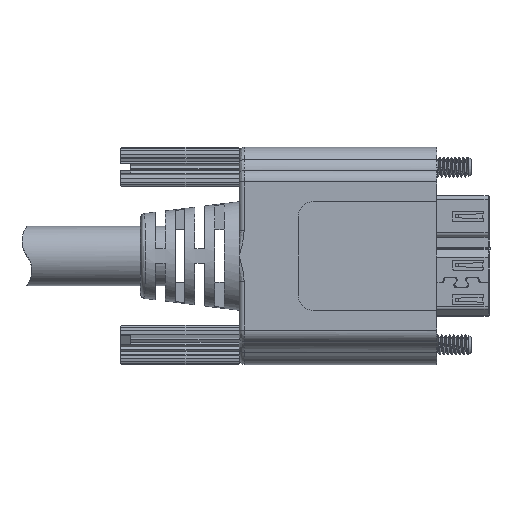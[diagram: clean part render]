
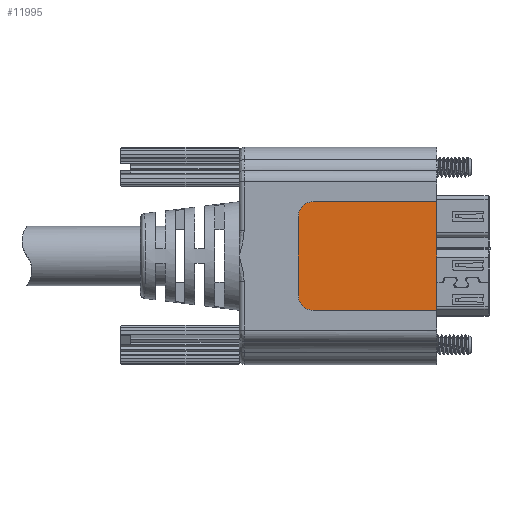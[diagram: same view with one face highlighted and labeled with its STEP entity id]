
A CAD part, front view. The second image highlights one B-rep face of the part: STEP entity #11995.
In plain terms, the highlighted planar face has unit normal (0, -1, 0).
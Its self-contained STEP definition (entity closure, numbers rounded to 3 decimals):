
#1059 = LINE ( 'NONE', #3590, #16041 ) ;
#1149 = VECTOR ( 'NONE', #32123, 1000. ) ;
#1517 = CARTESIAN_POINT ( 'NONE',  ( 5.5, -3.75, 12.5 ) ) ;
#2194 = CARTESIAN_POINT ( 'NONE',  ( 4.199, -3.75, 14. ) ) ;
#2733 = VERTEX_POINT ( 'NONE', #11306 ) ;
#3590 = CARTESIAN_POINT ( 'NONE',  ( -5.5, -3.75, 7. ) ) ;
#3626 = CARTESIAN_POINT ( 'NONE',  ( -5.061, -3.75, 13.561 ) ) ;
#5207 = CARTESIAN_POINT ( 'NONE',  ( 4., -3.75, 14. ) ) ;
#5294 = CARTESIAN_POINT ( 'NONE',  ( -5.5, -3.75, 12.5 ) ) ;
#6337 = CARTESIAN_POINT ( 'NONE',  ( -4.92, -3.75, 13.701 ) ) ;
#6612 = CARTESIAN_POINT ( 'NONE',  ( 5.061, -3.75, 13.561 ) ) ;
#7090 = CARTESIAN_POINT ( 'NONE',  ( 4., -3.75, 14. ) ) ;
#7308 = ORIENTED_EDGE ( 'NONE', *, *, #19846, .T. ) ;
#7375 = DIRECTION ( 'NONE',  ( 0., 0., 1. ) ) ;
#8833 = EDGE_CURVE ( 'NONE', #27751, #20628, #32471, .T. ) ;
#8979 = ORIENTED_EDGE ( 'NONE', *, *, #35525, .T. ) ;
#9336 = DIRECTION ( 'NONE',  ( 0., -1., 0. ) ) ;
#9574 = CARTESIAN_POINT ( 'NONE',  ( 5.31, -3.75, 13.258 ) ) ;
#10050 = CARTESIAN_POINT ( 'NONE',  ( 0., -3.75, 7. ) ) ;
#10868 = CARTESIAN_POINT ( 'NONE',  ( -5.061, -3.75, 13.561 ) ) ;
#11214 = VECTOR ( 'NONE', #20872, 1000. ) ;
#11306 = CARTESIAN_POINT ( 'NONE',  ( -5.5, -3.75, 12.5 ) ) ;
#11995 = ADVANCED_FACE ( 'NONE', ( #20995 ), #20466, .T. ) ;
#12253 = CARTESIAN_POINT ( 'NONE',  ( 5.5, -3.75, 12.5 ) ) ;
#12492 = DIRECTION ( 'NONE',  ( 0., 0., -1. ) ) ;
#12890 = VERTEX_POINT ( 'NONE', #24143 ) ;
#14756 = B_SPLINE_CURVE_WITH_KNOTS ( 'NONE', 3,
 ( #31767, #23770, #23425, #34861, #2194, #7090 ),
 .UNSPECIFIED., .F., .F.,
 ( 4, 2, 4 ),
 ( 0., 0.5, 1. ),
 .UNSPECIFIED. ) ;
#15746 = EDGE_CURVE ( 'NONE', #29019, #16618, #18925, .T. ) ;
#16041 = VECTOR ( 'NONE', #12492, 1000. ) ;
#16436 = CARTESIAN_POINT ( 'NONE',  ( -5.462, -3.75, 12.89 ) ) ;
#16618 = VERTEX_POINT ( 'NONE', #6612 ) ;
#18472 = ORIENTED_EDGE ( 'NONE', *, *, #22811, .T. ) ;
#18765 = CARTESIAN_POINT ( 'NONE',  ( -4., -3.75, 14. ) ) ;
#18925 = B_SPLINE_CURVE_WITH_KNOTS ( 'NONE', 3,
 ( #12253, #34316, #23239, #9574, #20518, #31578 ),
 .UNSPECIFIED., .F., .F.,
 ( 4, 2, 4 ),
 ( 0., 0.5, 1. ),
 .UNSPECIFIED. ) ;
#19038 = AXIS2_PLACEMENT_3D ( 'NONE', #10050, #9336, #31700 ) ;
#19779 = CARTESIAN_POINT ( 'NONE',  ( -4.39, -3.75, 13.962 ) ) ;
#19846 = EDGE_CURVE ( 'NONE', #12890, #30125, #26508, .T. ) ;
#19885 = EDGE_CURVE ( 'NONE', #16618, #30264, #14756, .T. ) ;
#19947 = CARTESIAN_POINT ( 'NONE',  ( -4., -3.75, 14. ) ) ;
#20466 = PLANE ( 'NONE',  #19038 ) ;
#20518 = CARTESIAN_POINT ( 'NONE',  ( 5.201, -3.75, 13.42 ) ) ;
#20628 = VERTEX_POINT ( 'NONE', #22546 ) ;
#20872 = DIRECTION ( 'NONE',  ( -1., 0., 0. ) ) ;
#20995 = FACE_OUTER_BOUND ( 'NONE', #27851, .T. ) ;
#21827 = CARTESIAN_POINT ( 'NONE',  ( -5.5, -3.75, 12.699 ) ) ;
#22212 = ORIENTED_EDGE ( 'NONE', *, *, #33779, .T. ) ;
#22546 = CARTESIAN_POINT ( 'NONE',  ( -5.061, -3.75, 13.561 ) ) ;
#22811 = EDGE_CURVE ( 'NONE', #2733, #12890, #1059, .T. ) ;
#23239 = CARTESIAN_POINT ( 'NONE',  ( 5.462, -3.75, 12.89 ) ) ;
#23357 = B_SPLINE_CURVE_WITH_KNOTS ( 'NONE', 3,
 ( #10868, #32708, #33257, #16436, #21827, #5294 ),
 .UNSPECIFIED., .F., .F.,
 ( 4, 2, 4 ),
 ( 0., 0.5, 1. ),
 .UNSPECIFIED. ) ;
#23425 = CARTESIAN_POINT ( 'NONE',  ( 4.758, -3.75, 13.81 ) ) ;
#23533 = LINE ( 'NONE', #34799, #28593 ) ;
#23756 = LINE ( 'NONE', #35205, #11214 ) ;
#23770 = CARTESIAN_POINT ( 'NONE',  ( 4.92, -3.75, 13.701 ) ) ;
#24118 = ORIENTED_EDGE ( 'NONE', *, *, #32913, .T. ) ;
#24143 = CARTESIAN_POINT ( 'NONE',  ( -5.5, -3.75, 0. ) ) ;
#26279 = CARTESIAN_POINT ( 'NONE',  ( 5.5, -3.75, 0. ) ) ;
#26508 = LINE ( 'NONE', #35044, #1149 ) ;
#27751 = VERTEX_POINT ( 'NONE', #18765 ) ;
#27851 = EDGE_LOOP ( 'NONE', ( #7308, #24118, #31689, #30816, #8979, #28313, #22212, #18472 ) ) ;
#28275 = CARTESIAN_POINT ( 'NONE',  ( -4.758, -3.75, 13.81 ) ) ;
#28313 = ORIENTED_EDGE ( 'NONE', *, *, #8833, .T. ) ;
#28593 = VECTOR ( 'NONE', #7375, 1000. ) ;
#29019 = VERTEX_POINT ( 'NONE', #1517 ) ;
#30125 = VERTEX_POINT ( 'NONE', #26279 ) ;
#30264 = VERTEX_POINT ( 'NONE', #5207 ) ;
#30816 = ORIENTED_EDGE ( 'NONE', *, *, #19885, .T. ) ;
#31578 = CARTESIAN_POINT ( 'NONE',  ( 5.061, -3.75, 13.561 ) ) ;
#31689 = ORIENTED_EDGE ( 'NONE', *, *, #15746, .T. ) ;
#31700 = DIRECTION ( 'NONE',  ( 0., 0., -1. ) ) ;
#31767 = CARTESIAN_POINT ( 'NONE',  ( 5.061, -3.75, 13.561 ) ) ;
#32123 = DIRECTION ( 'NONE',  ( 1., 0., 0. ) ) ;
#32471 = B_SPLINE_CURVE_WITH_KNOTS ( 'NONE', 3,
 ( #19947, #33919, #19779, #28275, #6337, #3626 ),
 .UNSPECIFIED., .F., .F.,
 ( 4, 2, 4 ),
 ( 0., 0.5, 1. ),
 .UNSPECIFIED. ) ;
#32708 = CARTESIAN_POINT ( 'NONE',  ( -5.201, -3.75, 13.42 ) ) ;
#32913 = EDGE_CURVE ( 'NONE', #30125, #29019, #23533, .T. ) ;
#33257 = CARTESIAN_POINT ( 'NONE',  ( -5.31, -3.75, 13.258 ) ) ;
#33779 = EDGE_CURVE ( 'NONE', #20628, #2733, #23357, .T. ) ;
#33919 = CARTESIAN_POINT ( 'NONE',  ( -4.199, -3.75, 14. ) ) ;
#34316 = CARTESIAN_POINT ( 'NONE',  ( 5.5, -3.75, 12.699 ) ) ;
#34799 = CARTESIAN_POINT ( 'NONE',  ( 5.5, -3.75, 7. ) ) ;
#34861 = CARTESIAN_POINT ( 'NONE',  ( 4.39, -3.75, 13.962 ) ) ;
#35044 = CARTESIAN_POINT ( 'NONE',  ( 0., -3.75, 0. ) ) ;
#35205 = CARTESIAN_POINT ( 'NONE',  ( 0., -3.75, 14. ) ) ;
#35525 = EDGE_CURVE ( 'NONE', #30264, #27751, #23756, .T. ) ;
